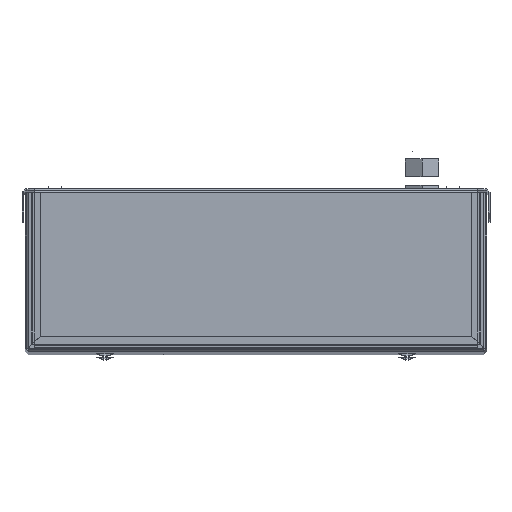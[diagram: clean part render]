
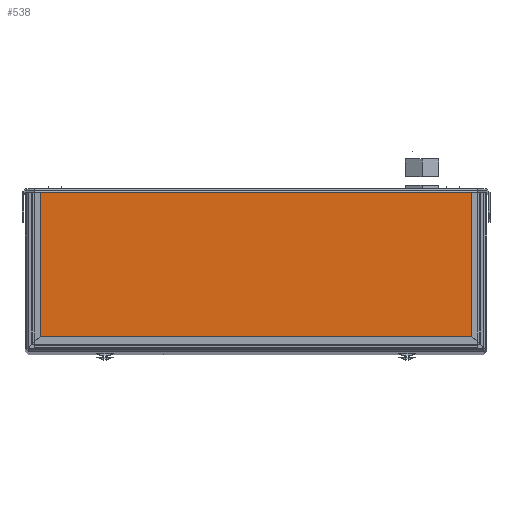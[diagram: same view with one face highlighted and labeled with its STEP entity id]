
A CAD part, top view. The second image highlights one B-rep face of the part: STEP entity #538.
In plain terms, the highlighted planar face has unit normal (0, 0, 1).
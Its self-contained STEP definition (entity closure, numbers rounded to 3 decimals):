
#538=ADVANCED_FACE('',(#877),#4748,.T.);
#877=FACE_OUTER_BOUND('',#1256,.T.);
#1256=EDGE_LOOP('',(#2051,#2052,#2053,#2054));
#2051=ORIENTED_EDGE('',*,*,#3262,.F.);
#2052=ORIENTED_EDGE('',*,*,#3261,.F.);
#2053=ORIENTED_EDGE('',*,*,#3260,.F.);
#2054=ORIENTED_EDGE('',*,*,#3259,.F.);
#3259=EDGE_CURVE('',#4386,#4389,#3879,.T.);
#3260=EDGE_CURVE('',#4389,#4390,#3880,.T.);
#3261=EDGE_CURVE('',#4390,#4385,#3881,.T.);
#3262=EDGE_CURVE('',#4385,#4386,#3882,.T.);
#3879=B_SPLINE_CURVE_WITH_KNOTS('',1,(#9539,#9540),.UNSPECIFIED.,.F.,.F.,
(2,2),(0.,1.),.UNSPECIFIED.);
#3880=B_SPLINE_CURVE_WITH_KNOTS('',1,(#9541,#9542),.UNSPECIFIED.,.F.,.F.,
(2,2),(-18.,82.6),.UNSPECIFIED.);
#3881=B_SPLINE_CURVE_WITH_KNOTS('',1,(#9543,#9544),.UNSPECIFIED.,.F.,.F.,
(2,2),(-1.,0.),.UNSPECIFIED.);
#3882=B_SPLINE_CURVE_WITH_KNOTS('',1,(#9545,#9546),.UNSPECIFIED.,.F.,.F.,
(2,2),(-82.6,18.),.UNSPECIFIED.);
#4385=VERTEX_POINT('',#9301);
#4386=VERTEX_POINT('',#9302);
#4389=VERTEX_POINT('',#9305);
#4390=VERTEX_POINT('',#9306);
#4748=PLANE('',#5416);
#5416=AXIS2_PLACEMENT_3D('',#8658,#5635,$);
#5635=DIRECTION('',(0.,0.,1.));
#8658=CARTESIAN_POINT('',(142.8,-68.8,1246.));
#9301=CARTESIAN_POINT('',(142.8,31.8,1246.));
#9302=CARTESIAN_POINT('',(142.8,-68.8,1246.));
#9305=CARTESIAN_POINT('',(-150.8,-68.8,1246.));
#9306=CARTESIAN_POINT('',(-150.8,31.8,1246.));
#9539=CARTESIAN_POINT('',(142.8,-68.8,1246.));
#9540=CARTESIAN_POINT('',(-150.8,-68.8,1246.));
#9541=CARTESIAN_POINT('',(-150.8,-68.8,1246.));
#9542=CARTESIAN_POINT('',(-150.8,31.8,1246.));
#9543=CARTESIAN_POINT('',(-150.8,31.8,1246.));
#9544=CARTESIAN_POINT('',(142.8,31.8,1246.));
#9545=CARTESIAN_POINT('',(142.8,31.8,1246.));
#9546=CARTESIAN_POINT('',(142.8,-68.8,1246.));
